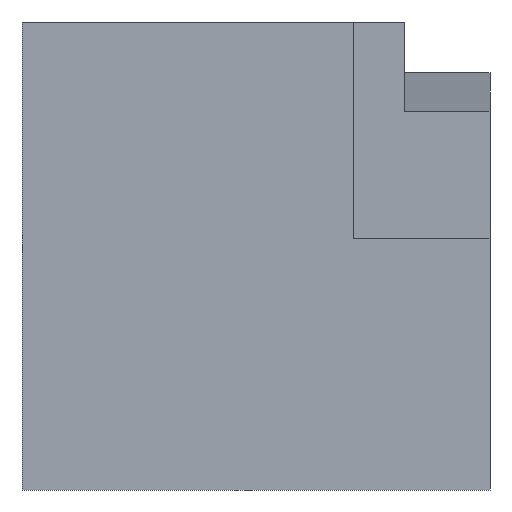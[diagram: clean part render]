
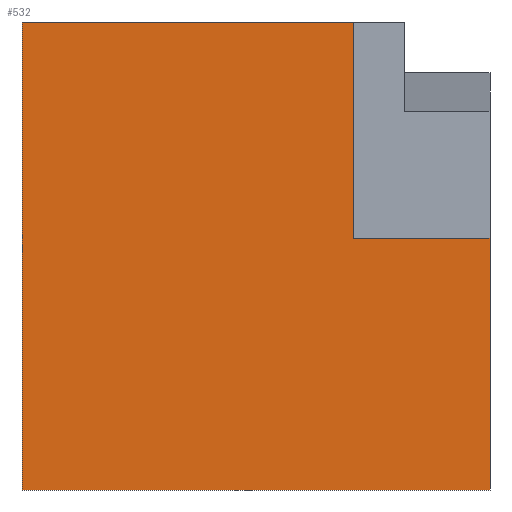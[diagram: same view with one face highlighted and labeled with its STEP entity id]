
A CAD part, left-side view. The second image highlights one B-rep face of the part: STEP entity #532.
In plain terms, the highlighted planar face has unit normal (-1, 0, 0).
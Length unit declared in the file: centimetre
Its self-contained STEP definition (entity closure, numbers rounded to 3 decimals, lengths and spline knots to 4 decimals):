
#15 = CARTESIAN_POINT ( 'NONE',  ( 0., 0., 1000. ) ) ;
#19 = VERTEX_POINT ( 'NONE', #176 ) ;
#21 = EDGE_CURVE ( 'NONE', #19, #87, #49, .T. ) ;
#28 = CARTESIAN_POINT ( 'NONE',  ( 0., 1000., 1000. ) ) ;
#48 = VERTEX_POINT ( 'NONE', #315 ) ;
#49 = LINE ( 'NONE', #446, #122 ) ;
#58 = CARTESIAN_POINT ( 'NONE',  ( 0., 1000., 0. ) ) ;
#83 = EDGE_CURVE ( 'NONE', #421, #87, #361, .T. ) ;
#87 = VERTEX_POINT ( 'NONE', #398 ) ;
#89 = ORIENTED_EDGE ( 'NONE', *, *, #21, .F. ) ;
#114 = CARTESIAN_POINT ( 'NONE',  ( 0., 1000., 0. ) ) ;
#116 = DIRECTION ( 'NONE',  ( 1., 0., 0. ) ) ;
#120 = ORIENTED_EDGE ( 'NONE', *, *, #518, .T. ) ;
#122 = VECTOR ( 'NONE', #320, 100. ) ;
#123 = AXIS2_PLACEMENT_3D ( 'NONE', #458, #116, #144 ) ;
#126 = ORIENTED_EDGE ( 'NONE', *, *, #201, .T. ) ;
#132 = VECTOR ( 'NONE', #501, 100. ) ;
#144 = DIRECTION ( 'NONE',  ( 0., 0., -1. ) ) ;
#154 = DIRECTION ( 'NONE',  ( 0., 0., -1. ) ) ;
#176 = CARTESIAN_POINT ( 'NONE',  ( 0., 1000., 1000. ) ) ;
#187 = CARTESIAN_POINT ( 'NONE',  ( 0., 0., 0. ) ) ;
#200 = DIRECTION ( 'NONE',  ( 0., 0., -1. ) ) ;
#201 = EDGE_CURVE ( 'NONE', #19, #399, #428, .T. ) ;
#203 = ORIENTED_EDGE ( 'NONE', *, *, #83, .T. ) ;
#216 = VECTOR ( 'NONE', #154, 100. ) ;
#224 = CARTESIAN_POINT ( 'NONE',  ( 0., 292.1208, 537.6795 ) ) ;
#230 = CARTESIAN_POINT ( 'NONE',  ( 0., 0., 537.6795 ) ) ;
#263 = DIRECTION ( 'NONE',  ( 0., 0., 1. ) ) ;
#266 = VECTOR ( 'NONE', #279, 100. ) ;
#279 = DIRECTION ( 'NONE',  ( 0., -1., 0. ) ) ;
#285 = LINE ( 'NONE', #58, #266 ) ;
#307 = EDGE_LOOP ( 'NONE', ( #549, #203, #89, #126, #120, #358 ) ) ;
#315 = CARTESIAN_POINT ( 'NONE',  ( 0., 0., 537.6795 ) ) ;
#320 = DIRECTION ( 'NONE',  ( 0., -1., 0. ) ) ;
#335 = LINE ( 'NONE', #15, #216 ) ;
#342 = EDGE_CURVE ( 'NONE', #421, #48, #377, .T. ) ;
#358 = ORIENTED_EDGE ( 'NONE', *, *, #528, .F. ) ;
#361 = LINE ( 'NONE', #224, #566 ) ;
#377 = LINE ( 'NONE', #230, #132 ) ;
#378 = PLANE ( 'NONE',  #123 ) ;
#381 = FACE_OUTER_BOUND ( 'NONE', #307, .T. ) ;
#398 = CARTESIAN_POINT ( 'NONE',  ( 0., 292.1208, 1000. ) ) ;
#399 = VERTEX_POINT ( 'NONE', #114 ) ;
#413 = VECTOR ( 'NONE', #200, 100. ) ;
#421 = VERTEX_POINT ( 'NONE', #493 ) ;
#428 = LINE ( 'NONE', #28, #413 ) ;
#446 = CARTESIAN_POINT ( 'NONE',  ( 0., 1000., 1000. ) ) ;
#458 = CARTESIAN_POINT ( 'NONE',  ( 0., 1000., 1000. ) ) ;
#493 = CARTESIAN_POINT ( 'NONE',  ( 0., 292.1208, 537.6795 ) ) ;
#501 = DIRECTION ( 'NONE',  ( 0., -1., 0. ) ) ;
#518 = EDGE_CURVE ( 'NONE', #399, #556, #285, .T. ) ;
#528 = EDGE_CURVE ( 'NONE', #48, #556, #335, .T. ) ;
#532 = ADVANCED_FACE ( 'NONE', ( #381 ), #378, .F. ) ;
#549 = ORIENTED_EDGE ( 'NONE', *, *, #342, .F. ) ;
#556 = VERTEX_POINT ( 'NONE', #187 ) ;
#566 = VECTOR ( 'NONE', #263, 100. ) ;
